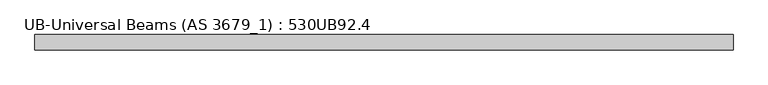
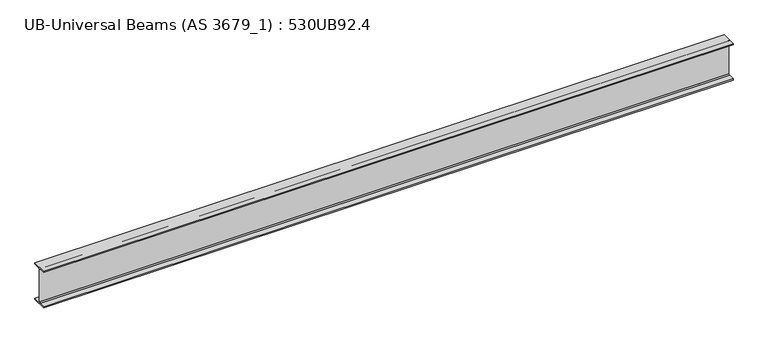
"""IFC4 building model written with IfcOpenShell, lengths in millimetres: beam geometry, UB-Universal Beams (AS 3679_1) : 530UB92.4."""

import ifcopenshell
import ifcopenshell.guid

model = None  # the IFC model being written
_history = None  # IfcOwnerHistory: only IFC2X3 demands one
_inside = {}  # id of a spatial element -> (the spatial element, [elements in it])
_under = {}  # id of a project, library or spatial element -> (it, [spatial elements below it])
_declared = {}  # id of a project -> (the project, [libraries it declares])
_typed = {}  # id of a type object -> (the type object, [elements of that type])
_made_of = {}  # id of a material, layer set ... -> (it, [elements and type objects made of it])


def new_model(schema):
    """Start an empty IFC model of exactly this schema.

    Asked for "IFC4X3", IfcOpenShell would pick the latest addendum, in which some entities
    have other attributes; the version numbers below select the first issue.
    IFC2X3 requires an IfcOwnerHistory on every rooted entity: one is made here for all.
    """
    global model, _history
    if schema == "IFC4X3":
        model = ifcopenshell.file(schema_version=(4, 3, 0, 0))
    else:
        model = ifcopenshell.file(schema=schema)
    _inside.clear()
    _under.clear()
    _declared.clear()
    _typed.clear()
    _made_of.clear()
    _history = None
    if model.schema == "IFC2X3":
        org = make("IfcOrganization", Name="unknown")
        user = make(
            "IfcPersonAndOrganization",
            ThePerson=make("IfcPerson", FamilyName="unknown"),
            TheOrganization=org,
        )
        app = make(
            "IfcApplication",
            ApplicationDeveloper=org,
            Version="unknown",
            ApplicationFullName="unknown",
            ApplicationIdentifier="unknown",
        )
        _history = make(
            "IfcOwnerHistory",
            OwningUser=user,
            OwningApplication=app,
            ChangeAction="ADDED",
            CreationDate=0,
        )
    return model


def make(cls, **values):
    """One entity of the class cls with the attributes given. An attribute that is None is left unset."""
    return model.create_entity(
        cls, **{name: value for name, value in values.items() if value is not None}
    )


def rooted(cls, **values):
    """An entity with a GlobalId (a new one), such as an element, a storey or a relation."""
    return make(cls, GlobalId=ifcopenshell.guid.new(), OwnerHistory=_history, **values)


def si_unit(unit_type, name, prefix=None):
    """IfcSIUnit, for example si_unit("LENGTHUNIT", "METRE", prefix="MILLI")."""
    return make("IfcSIUnit", UnitType=unit_type, Prefix=prefix, Name=name)


def assignment(units):
    """IfcUnitAssignment: the units of a project."""
    return None if units is None else make("IfcUnitAssignment", Units=units)


def point(xyz):
    """IfcCartesianPoint."""
    return None if xyz is None else make("IfcCartesianPoint", Coordinates=xyz)


def direction(xyz):
    """IfcDirection."""
    return None if xyz is None else make("IfcDirection", DirectionRatios=xyz)


def frame(location, z_axis=None, x_axis=None):
    """IfcAxis2Placement3D, a coordinate frame: its origin and axes. An axis left out is left unset."""
    return make(
        "IfcAxis2Placement3D",
        Location=point(location),
        Axis=direction(z_axis),
        RefDirection=direction(x_axis),
    )


def frame_2d(location, x_axis=None):
    """IfcAxis2Placement2D, a coordinate frame in the plane: its origin and x axis."""
    return make(
        "IfcAxis2Placement2D", Location=point(location), RefDirection=direction(x_axis)
    )


def origin():
    """The frame at (0, 0, 0) with its axes left unset."""
    return frame((0.0, 0.0, 0.0))


def place(relative_to, where):
    """IfcLocalPlacement: puts the frame where relative to a parent placement (None: the world)."""
    return make(
        "IfcLocalPlacement", PlacementRelTo=relative_to, RelativePlacement=where
    )


def context(
    kind, dimensions, precision=None, world=None, true_north=None, identifier=None
):
    """IfcGeometricRepresentationContext, for example the 3D "Model" context."""
    return make(
        "IfcGeometricRepresentationContext",
        ContextIdentifier=identifier,
        ContextType=kind,
        CoordinateSpaceDimension=dimensions,
        Precision=precision,
        WorldCoordinateSystem=world,
        TrueNorth=true_north,
    )


def project(units=None, contexts=None):
    """IfcProject with its units and contexts."""
    return rooted(
        "IfcProject",
        Name="project",
        RepresentationContexts=contexts,
        UnitsInContext=assignment(units),
    )


def spatial(cls, under=None, at=None, **own):
    """A site, building, storey or space (cls), placed at a placement, below another one or the project."""
    s = rooted(cls, ObjectPlacement=at, **own)
    if under is not None:
        _under.setdefault(under.id(), (under, []))[1].append(s)
    return s


def polyline(points):
    """IfcPolyline through the points."""
    return make("IfcPolyline", Points=[point(p) for p in points])


def circle_curve(where, radius):
    """IfcCircle in the frame where."""
    return make("IfcCircle", Position=where, Radius=radius)


def trimmed(basis, trim1, trim2, sense, master):
    """IfcTrimmedCurve: the piece of a basis curve between two trims."""
    return make(
        "IfcTrimmedCurve",
        BasisCurve=basis,
        Trim1=trim1,
        Trim2=trim2,
        SenseAgreement=sense,
        MasterRepresentation=master,
    )


def segment(curve, same_sense, transition):
    """IfcCompositeCurveSegment."""
    return make(
        "IfcCompositeCurveSegment",
        Transition=transition,
        SameSense=same_sense,
        ParentCurve=curve,
    )


def composite_curve(segments, self_intersect=None):
    """IfcCompositeCurve: segments joined end to end."""
    return make("IfcCompositeCurve", Segments=segments, SelfIntersect=self_intersect)


def outline(outer, holes=None, kind="AREA"):
    """IfcArbitraryClosedProfileDef: a profile drawn as a closed curve; with holes, ...WithVoids."""
    if holes is None:
        return make("IfcArbitraryClosedProfileDef", ProfileType=kind, OuterCurve=outer)
    return make(
        "IfcArbitraryProfileDefWithVoids",
        ProfileType=kind,
        OuterCurve=outer,
        InnerCurves=holes,
    )


def extrude(swept, where, along, depth):
    """IfcExtrudedAreaSolid: the profile swept, set in the frame where, extruded along a direction by depth."""
    return make(
        "IfcExtrudedAreaSolid",
        SweptArea=swept,
        Position=where,
        ExtrudedDirection=direction(along),
        Depth=depth,
    )


def shape(context_of_items, identifier, shape_type, items):
    """IfcShapeRepresentation: the items that make up one representation, for example the "Body"."""
    return make(
        "IfcShapeRepresentation",
        ContextOfItems=context_of_items,
        RepresentationIdentifier=identifier,
        RepresentationType=shape_type,
        Items=items,
    )


def source(mapping_origin, context_of_items, identifier, shape_type, items):
    """IfcRepresentationMap: a shape defined once, which mapped items show again and again."""
    return make(
        "IfcRepresentationMap",
        MappingOrigin=mapping_origin,
        MappedRepresentation=shape(context_of_items, identifier, shape_type, items),
    )


def transform(
    local_origin,
    x_axis=None,
    y_axis=None,
    z_axis=None,
    scale=None,
    scale2=None,
    scale3=None,
    uniform=True,
):
    """IfcCartesianTransformationOperator3D, or its non-uniform kind. x_axis, y_axis, z_axis: its Axis1, 2, 3."""
    if uniform:
        return make(
            "IfcCartesianTransformationOperator3D",
            Axis1=direction(x_axis),
            Axis2=direction(y_axis),
            LocalOrigin=point(local_origin),
            Scale=scale,
            Axis3=direction(z_axis),
        )
    return make(
        "IfcCartesianTransformationOperator3DnonUniform",
        Axis1=direction(x_axis),
        Axis2=direction(y_axis),
        LocalOrigin=point(local_origin),
        Scale=scale,
        Axis3=direction(z_axis),
        Scale2=scale2,
        Scale3=scale3,
    )


def mapped(mapping_source, mapping_target):
    """IfcMappedItem: shows the shape of a source again, moved by a transform."""
    return make(
        "IfcMappedItem", MappingSource=mapping_source, MappingTarget=mapping_target
    )


def made_of(thing, what):
    """Note that an element or type object is made of a material, layer set ...; save() writes the relation."""
    if what is not None:
        _made_of.setdefault(what.id(), (what, []))[1].append(thing)
    return thing


def element(
    cls,
    number,
    at=None,
    inside=None,
    cuts=None,
    type_object=None,
    material=None,
    context=None,
    identifier="Body",
    shape_type=None,
    held_by="IfcProductDefinitionShape",
    body=None,
    shapes=None,
    **own,
):
    """One element of the class cls, such as IfcWall. Its Tag is "e" and its number.

    at: its placement. inside: the storey or other place that contains it. cuts: it is an
    opening in that element (IfcRelVoidsElement). A single representation is given by context,
    identifier, shape_type and body (its items); several are given by shapes. held_by: the class
    of the entity that holds the representations. save() writes the other relations.
    """
    e = rooted(cls, Tag="e%d" % number, ObjectPlacement=at, **own)
    if body is not None:
        shapes = [shape(context, identifier, shape_type, body)]
    if shapes is not None:
        e.Representation = make(held_by, Representations=shapes)
    if inside is not None:
        _inside.setdefault(inside.id(), (inside, []))[1].append(e)
    if cuts is not None:
        rooted(
            "IfcRelVoidsElement", RelatingBuildingElement=cuts, RelatedOpeningElement=e
        )
    if type_object is not None:
        _typed.setdefault(type_object.id(), (type_object, []))[1].append(e)
    return made_of(e, material)


def aggregate(whole, parts):
    """IfcRelAggregates: a whole, such as a stair, and the parts it consists of."""
    return rooted("IfcRelAggregates", RelatingObject=whole, RelatedObjects=parts)


def save(model, path):
    """Write the relations noted so far, then the file.

    IfcRelAggregates (storeys below a building ...), IfcRelContainedInSpatialStructure (elements
    in a storey), IfcRelDefinesByType, IfcRelAssociatesMaterial and IfcRelDeclares: one each for
    every whole, place, type object, material and project.
    """
    for whole, parts in _under.values():
        aggregate(whole, parts)
    for where, things in _inside.values():
        rooted(
            "IfcRelContainedInSpatialStructure",
            RelatedElements=things,
            RelatingStructure=where,
        )
    for kind, things in _typed.values():
        rooted("IfcRelDefinesByType", RelatedObjects=things, RelatingType=kind)
    for what, things in _made_of.values():
        rooted("IfcRelAssociatesMaterial", RelatedObjects=things, RelatingMaterial=what)
    for by, libraries in _declared.values():
        rooted("IfcRelDeclares", RelatingContext=by, RelatedDefinitions=libraries)
    model.write(path)


def ub_universal_beams_as_3679_1_530ub92_4_39bd4a42(model_context):
    return source(origin(), model_context, "Body", "SweptSolid", [
        extrude(outline(composite_curve([segment(polyline([(104.5, -250.9), (104.5, -266.5), (-104.5, -266.5), (-104.5, -250.9), (-19.1, -250.9)]), True, "CONTINUOUS"), segment(trimmed(circle_curve(frame_2d((-19.1, -236.9)), 14.0), [point((-19.1, -250.9))], [point((-5.1, -236.9))], True, "CARTESIAN"), True, "CONTINUOUS"), segment(polyline([(-5.1, -236.9), (-5.1, 236.9)]), True, "CONTINUOUS"), segment(trimmed(circle_curve(frame_2d((-19.1, 236.9)), 14.0), [point((-5.1, 236.9))], [point((-19.1, 250.9))], True, "CARTESIAN"), True, "CONTINUOUS"), segment(polyline([(-19.1, 250.9), (-104.5, 250.9), (-104.5, 266.5), (104.5, 266.5), (104.5, 250.9), (19.1, 250.9)]), True, "CONTINUOUS"), segment(trimmed(circle_curve(frame_2d((19.1, 236.9)), 14.0), [point((19.1, 250.9))], [point((5.1, 236.9))], True, "CARTESIAN"), True, "CONTINUOUS"), segment(polyline([(5.1, 236.9), (5.1, -236.9)]), True, "CONTINUOUS"), segment(trimmed(circle_curve(frame_2d((19.1, -236.9)), 14.0), [point((5.1, -236.9))], [point((19.1, -250.9))], True, "CARTESIAN"), True, "CONTINUOUS"), segment(polyline([(19.1, -250.9), (104.5, -250.9)]), True, "CONTINUOUS")], self_intersect=False)), frame((-4767.3, 0.0, 0.0), z_axis=(1.0, 0.0, 0.0), x_axis=(0.0, 1.0, 0.0)), (0.0, 0.0, 1.0), 9534.6),
    ])


if __name__ == "__main__":
    model = new_model("IFC4")
    model_context = context("Model", 3, world=origin())
    ifc_project = project(units=[si_unit("LENGTHUNIT", "METRE", prefix="MILLI")], contexts=[model_context])
    site = spatial("IfcSite", under=ifc_project)
    building = spatial("IfcBuilding", under=site)
    placement = place(None, origin())
    ub_universal_beams_as_3679_1_530ub92_4_shape = ub_universal_beams_as_3679_1_530ub92_4_39bd4a42(model_context)
    element("IfcBeam", 1, ObjectType="UB-Universal Beams (AS 3679_1) : 530UB92.4", at=placement, inside=building, context=model_context, shape_type="MappedRepresentation", body=[
        mapped(ub_universal_beams_as_3679_1_530ub92_4_shape, transform((0.0, 0.0, 0.0), x_axis=(1.0, 0.0, 0.0), y_axis=(0.0, 1.0, 0.0), z_axis=(0.0, 0.0, 1.0))),
    ])
    save(model, "model.ifc")
